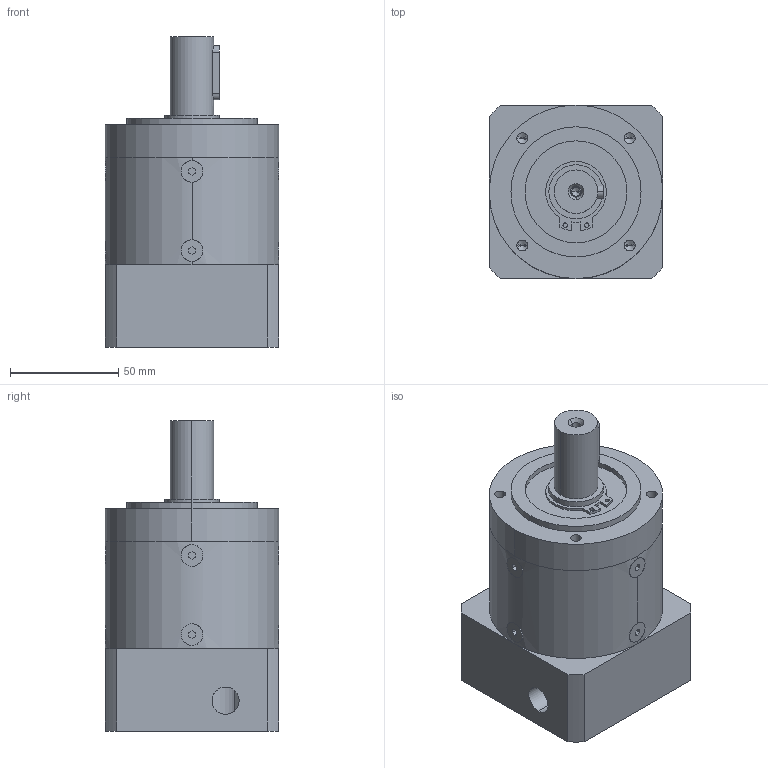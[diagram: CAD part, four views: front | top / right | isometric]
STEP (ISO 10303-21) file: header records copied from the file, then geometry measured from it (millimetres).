
FILE_DESCRIPTION (( 'STEP AP214' ), '1' );
FILE_NAME ('PRL80-L1.STEP', '2017-08-31T06:58:02', ( '微软用户' ), ( '微软中国' ), 'SwSTEP 2.0', 'SolidWorks 2014', '' );
FILE_SCHEMA (( 'AUTOMOTIVE_DESIGN' ));
Length unit declared in the file: millimetre
Products named in the file (8): 粣創-6006 30x55x13; 邧埴瑩 6x6x25; PRF80 蟀諉啣-梓袧; 囀鞠褒蹟佪-M5℅20; PRF80 内齿圈_一级内齿圈; PRF80 薊粣ん_D7-19 梓袧; PRL80 奻屳唳; PRL80-L1
Assembly tree (7 placements, depth 2):
  PRL80-L1
    PRL80 奻屳唳
    PRF80 薊粣ん_D7-19 梓袧
    PRF80 内齿圈_一级内齿圈
    囀鞠褒蹟佪-M5℅20
    PRF80 蟀諉啣-梓袧
    邧埴瑩 6x6x25
    粣創-6006 30x55x13
Bounding box: 80.1 x 80.1 x 143 mm (x, y, z)
Volume: 503520.3 mm3; surface area: 108236.9 mm2
Topology: 7 solids, 7 shells, 495 faces, 1352 edges, 877 vertices
Faces by surface type: plane 167, cylinder 160, sphere 88, torus 48, cone 32
Entity records: 21874 total; most frequent: CARTESIAN_POINT 7342, ORIENTED_EDGE 2652, DIRECTION 2540, EDGE_CURVE 1326, AXIS2_PLACEMENT_3D 1055, VERTEX_POINT 877, EDGE_LOOP 583, CIRCLE 550
